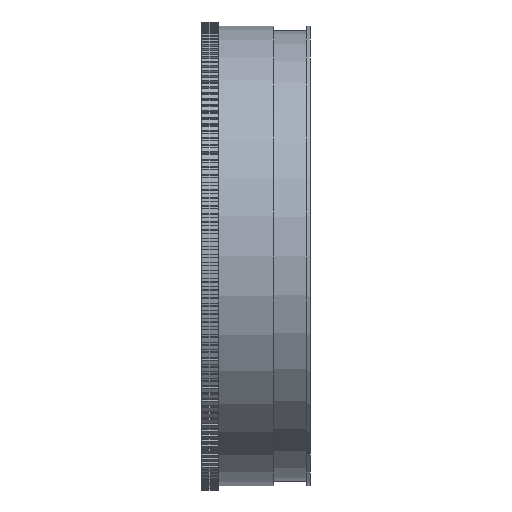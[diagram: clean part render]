
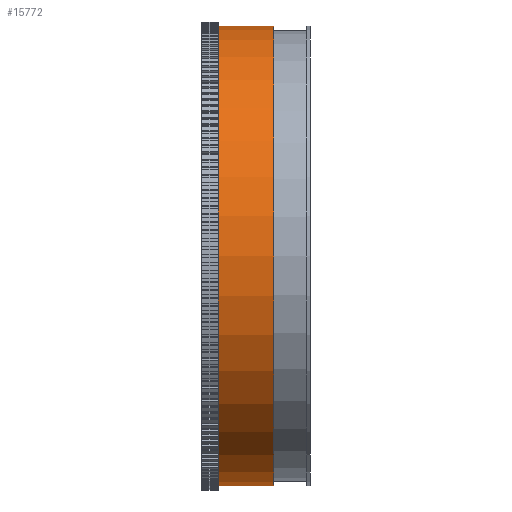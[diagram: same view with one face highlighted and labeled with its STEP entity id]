
A CAD part, front view. The second image highlights one B-rep face of the part: STEP entity #15772.
In plain terms, the highlighted cylindrical face has radius 137.5 mm (diameter 275 mm), a full revolution.
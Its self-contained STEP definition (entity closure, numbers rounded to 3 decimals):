
#4393=CYLINDRICAL_SURFACE($,#17018,137.5);
#4523=FACE_BOUND($,#6218,.T.);
#5307=FACE_OUTER_BOUND($,#6217,.T.);
#6217=EDGE_LOOP($,(#14977));
#6218=EDGE_LOOP($,(#14978));
#6642=CIRCLE($,#16923,137.5);
#6680=CIRCLE($,#17017,137.5);
#8178=VERTEX_POINT($,#25752);
#8216=VERTEX_POINT($,#25884);
#10434=EDGE_CURVE($,#8178,#8178,#6642,.T.);
#10472=EDGE_CURVE($,#8216,#8216,#6680,.T.);
#14977=ORIENTED_EDGE($,*,*,#10472,.F.);
#14978=ORIENTED_EDGE($,*,*,#10434,.T.);
#15772=ADVANCED_FACE($,(#5307,#4523),#4393,.T.);
#16923=AXIS2_PLACEMENT_3D($,#25753,#21112,#21113);
#17017=AXIS2_PLACEMENT_3D($,#25885,#21300,#21301);
#17018=AXIS2_PLACEMENT_3D($,#25886,#21302,#21303);
#21112=DIRECTION('center_axis',(1.,0.,0.));
#21113=DIRECTION('ref_axis',(0.,1.,0.));
#21300=DIRECTION('center_axis',(1.,0.,0.));
#21301=DIRECTION('ref_axis',(0.,1.,0.));
#21302=DIRECTION('center_axis',(1.,0.,0.));
#21303=DIRECTION('ref_axis',(0.,1.,0.));
#25752=CARTESIAN_POINT('',(-22.5,137.5,0.));
#25753=CARTESIAN_POINT('Origin',(-22.5,0.,0.));
#25884=CARTESIAN_POINT('',(10.5,137.5,0.));
#25885=CARTESIAN_POINT('Origin',(10.5,0.,0.));
#25886=CARTESIAN_POINT('Origin',(-6.,0.,0.));
